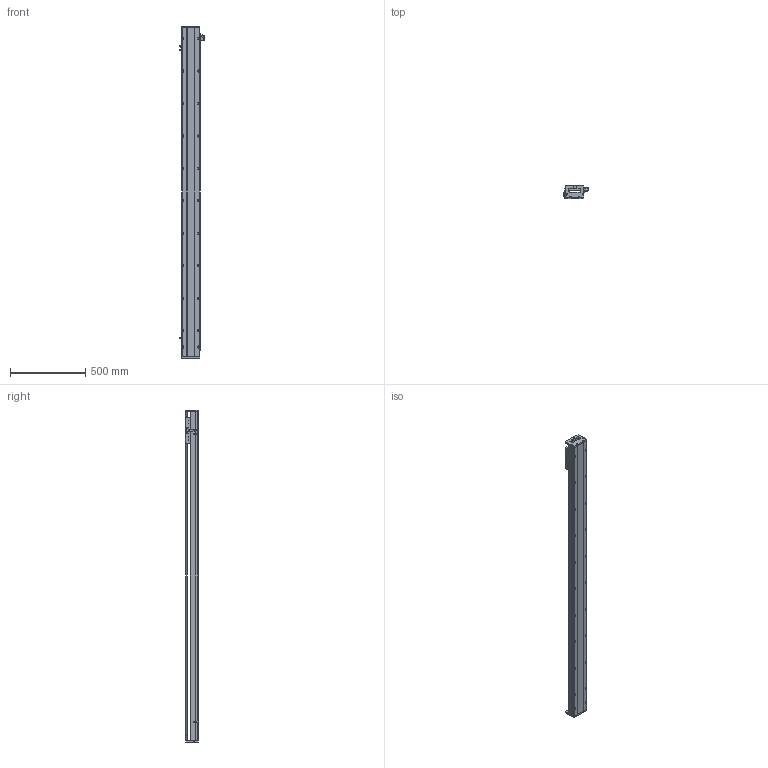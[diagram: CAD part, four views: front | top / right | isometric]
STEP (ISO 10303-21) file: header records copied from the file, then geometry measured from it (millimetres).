
FILE_DESCRIPTION (( 'STEP AP203' ), '1' );
FILE_NAME ('SKR12S-C1-S1938（简）.STEP', '2022-09-26T03:00:31', ( '' ), ( '' ), 'SwSTEP 2.0', 'SolidWorks 2018', '' );
FILE_SCHEMA (( 'CONFIG_CONTROL_DESIGN' ));
Length unit declared in the file: millimetre
Products named in the file (8): EE-SX672; SIKO棠掑; 覜茼え; SKR12耜啣; SKR12S-C1-S1938（简）; SKR12滑台-170L（简）; 棠掑假蚾輸; SKR12菁釱-C1-S1938(潠)
Assembly tree (10 placements, depth 2):
  SKR12S-C1-S1938（简）
    SKR12菁釱-C1-S1938(潠)
    SKR12滑台-170L（简）
    SKR12耜啣  x2
    棠掑假蚾輸
    SIKO棠掑
    覜茼え
    EE-SX672  x3
Bounding box: 162.7 x 87.3 x 2208 mm (x, y, z)
Volume: 9477314.5 mm3; surface area: 1490979.6 mm2
Topology: 11 solids, 11 shells, 1116 faces, 2991 edges, 1887 vertices
Faces by surface type: cylinder 541, plane 421, cone 154
Entity records: 31503 total; most frequent: CARTESIAN_POINT 6819, DIRECTION 5089, ORIENTED_EDGE 4906, EDGE_CURVE 2453, AXIS2_PLACEMENT_3D 1901, VERTEX_POINT 1591, VECTOR 1287, LINE 1287
